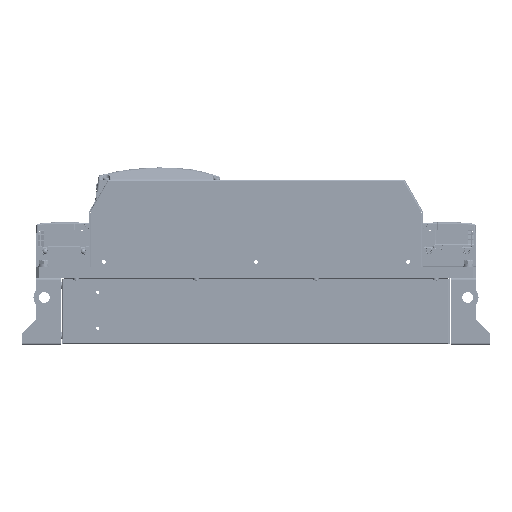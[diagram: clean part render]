
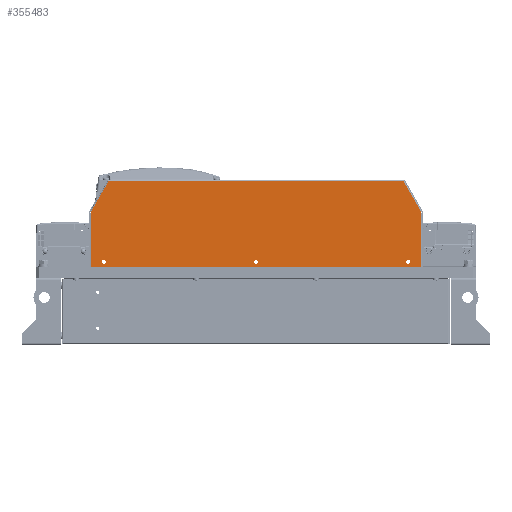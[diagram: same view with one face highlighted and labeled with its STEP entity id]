
A CAD part, front view. The second image highlights one B-rep face of the part: STEP entity #355483.
In plain terms, the highlighted planar face has unit normal (0, -1, 0) as drawn and (-1, 0, 0) by its records, which use the part's own axes.
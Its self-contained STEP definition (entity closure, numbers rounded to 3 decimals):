
#350559=CARTESIAN_POINT('',(-128.,-1.3,205.473));
#350567=DIRECTION('',(0.,0.,-1.));
#350568=VECTOR('',#350567,410.967);
#350569=CARTESIAN_POINT('',(-128.,-1.3,205.473));
#350570=LINE('',#350569,#350568);
#350711=DIRECTION('',(0.,1.,0.));
#350712=VECTOR('',#350711,0.392);
#350713=CARTESIAN_POINT('',(-128.,-45.301,-230.35));
#350714=LINE('',#350713,#350712);
#350718=DIRECTION('',(0.,0.866,0.5));
#350719=VECTOR('',#350718,0.6);
#350720=CARTESIAN_POINT('',(-128.,-1.95,-205.547));
#350721=LINE('',#350720,#350719);
#350725=DIRECTION('',(0.,-0.49,0.872));
#350726=VECTOR('',#350725,0.282);
#350727=CARTESIAN_POINT('',(-128.,-1.292,
-205.493));
#350728=LINE('',#350727,#350726);
#350732=DIRECTION('',(0.,-0.5,-0.866));
#350733=VECTOR('',#350732,0.111);
#350734=CARTESIAN_POINT('',(-128.,-1.3,205.473));
#350735=LINE('',#350734,#350733);
#350739=DIRECTION('',(0.,0.866,-0.5));
#350740=VECTOR('',#350739,0.6);
#350741=CARTESIAN_POINT('',(-128.,-1.875,205.677));
#350742=LINE('',#350741,#350740);
#350746=DIRECTION('',(0.,1.,0.));
#350747=VECTOR('',#350746,0.692);
#350748=CARTESIAN_POINT('',(-128.,-45.301,230.35));
#350749=LINE('',#350748,#350747);
#350753=CARTESIAN_POINT('',(-128.,-113.97,-212.));
#350754=DIRECTION('',(1.,0.,0.));
#350755=DIRECTION('',(0.,-1.,0.));
#350756=AXIS2_PLACEMENT_3D('',#350753,#350754,#350755);
#350761=CARTESIAN_POINT('',(-128.,-113.97,-212.));
#350762=DIRECTION('',(1.,0.,0.));
#350763=DIRECTION('',(0.,1.,0.));
#350764=AXIS2_PLACEMENT_3D('',#350761,#350762,#350763);
#350769=CARTESIAN_POINT('',(-128.,-113.97,0.));
#350770=DIRECTION('',(1.,0.,0.));
#350771=DIRECTION('',(0.,-1.,0.));
#350772=AXIS2_PLACEMENT_3D('',#350769,#350770,#350771);
#350777=CARTESIAN_POINT('',(-128.,-113.97,0.));
#350778=DIRECTION('',(1.,0.,0.));
#350779=DIRECTION('',(0.,1.,0.));
#350780=AXIS2_PLACEMENT_3D('',#350777,#350778,#350779);
#350785=CARTESIAN_POINT('',(-128.,-113.97,212.));
#350786=DIRECTION('',(1.,0.,0.));
#350787=DIRECTION('',(0.,-1.,0.));
#350788=AXIS2_PLACEMENT_3D('',#350785,#350786,#350787);
#350793=CARTESIAN_POINT('',(-128.,-113.97,212.));
#350794=DIRECTION('',(1.,0.,0.));
#350795=DIRECTION('',(0.,1.,0.));
#350796=AXIS2_PLACEMENT_3D('',#350793,#350794,#350795);
#350825=DIRECTION('',(0.,0.866,0.5));
#350826=VECTOR('',#350825,49.605);
#350827=CARTESIAN_POINT('',(-128.,-44.909,-230.35));
#350828=LINE('',#350827,#350826);
#350982=DIRECTION('',(0.,-0.866,0.5));
#350983=VECTOR('',#350982,49.345);
#350984=CARTESIAN_POINT('',(-128.,-1.875,205.677));
#350985=LINE('',#350984,#350983);
#351192=DIRECTION('',(0.,-1.,0.));
#351193=VECTOR('',#351192,75.199);
#351194=CARTESIAN_POINT('',(-128.,-45.301,230.35));
#351195=LINE('',#351194,#351193);
#351292=DIRECTION('',(0.,0.,1.));
#351293=VECTOR('',#351292,460.7);
#351294=CARTESIAN_POINT('',(-128.,-120.5,-230.35));
#351295=LINE('',#351294,#351293);
#351313=DIRECTION('',(0.,1.,0.));
#351314=VECTOR('',#351313,75.199);
#351315=CARTESIAN_POINT('',(-128.,-120.5,-230.35));
#351316=LINE('',#351315,#351314);
#351942=CARTESIAN_POINT('',(-128.,-1.875,205.677));
#351943=VERTEX_POINT('',#351942);
#351946=CARTESIAN_POINT('',(-128.,-1.355,205.377));
#351947=VERTEX_POINT('',#351946);
#351990=CARTESIAN_POINT('',(-128.,-120.5,230.35));
#351991=VERTEX_POINT('',#351990);
#352002=CARTESIAN_POINT('',(-128.,-45.301,230.35));
#352003=CARTESIAN_POINT('',(-128.,-44.609,230.35));
#352004=VERTEX_POINT('',#352002);
#352005=VERTEX_POINT('',#352003);
#352066=VERTEX_POINT('',#350559);
#352146=CARTESIAN_POINT('',(-128.,-1.95,-205.547));
#352147=CARTESIAN_POINT('',(-128.,-1.43,-205.247));
#352148=VERTEX_POINT('',#352146);
#352149=VERTEX_POINT('',#352147);
#352150=CARTESIAN_POINT('',(-128.,-1.292,
-205.493));
#352151=VERTEX_POINT('',#352150);
#352166=CARTESIAN_POINT('',(-128.,-120.5,-230.35));
#352167=VERTEX_POINT('',#352166);
#352178=CARTESIAN_POINT('',(-128.,-45.301,-230.35));
#352179=CARTESIAN_POINT('',(-128.,-44.909,-230.35));
#352180=VERTEX_POINT('',#352178);
#352181=VERTEX_POINT('',#352179);
#352285=CARTESIAN_POINT('',(-128.,-116.72,-212.));
#352286=CARTESIAN_POINT('',(-128.,-111.22,-212.));
#352287=VERTEX_POINT('',#352285);
#352288=VERTEX_POINT('',#352286);
#352301=CARTESIAN_POINT('',(-128.,-116.72,0.));
#352302=CARTESIAN_POINT('',(-128.,-111.22,0.));
#352303=VERTEX_POINT('',#352301);
#352304=VERTEX_POINT('',#352302);
#352317=CARTESIAN_POINT('',(-128.,-116.72,212.));
#352318=CARTESIAN_POINT('',(-128.,-111.22,212.));
#352319=VERTEX_POINT('',#352317);
#352320=VERTEX_POINT('',#352318);
#355437=CARTESIAN_POINT('',(-128.,0.,-108.371));
#355438=DIRECTION('',(-1.,0.,0.));
#355439=DIRECTION('',(0.,0.,-1.));
#355440=AXIS2_PLACEMENT_3D('',#355437,#355438,#355439);
#355441=PLANE('',#355440);
#355442=ORIENTED_EDGE('',*,*,#355423,.T.);
#355444=ORIENTED_EDGE('',*,*,#355443,.T.);
#355446=ORIENTED_EDGE('',*,*,#355445,.T.);
#355448=ORIENTED_EDGE('',*,*,#355447,.F.);
#355449=ORIENTED_EDGE('',*,*,#355333,.F.);
#355450=ORIENTED_EDGE('',*,*,#355351,.T.);
#355452=ORIENTED_EDGE('',*,*,#355451,.F.);
#355454=ORIENTED_EDGE('',*,*,#355453,.T.);
#355456=ORIENTED_EDGE('',*,*,#355455,.F.);
#355458=ORIENTED_EDGE('',*,*,#355457,.T.);
#355460=ORIENTED_EDGE('',*,*,#355459,.F.);
#355462=ORIENTED_EDGE('',*,*,#355461,.T.);
#355463=EDGE_LOOP('',(#355442,#355444,#355446,#355448,#355449,#355450,#355452,
#355454,#355456,#355458,#355460,#355462));
#355464=FACE_OUTER_BOUND('',#355463,.F.);
#355466=ORIENTED_EDGE('',*,*,#355465,.F.);
#355468=ORIENTED_EDGE('',*,*,#355467,.F.);
#355469=EDGE_LOOP('',(#355466,#355468));
#355470=FACE_BOUND('',#355469,.F.);
#355472=ORIENTED_EDGE('',*,*,#355471,.F.);
#355474=ORIENTED_EDGE('',*,*,#355473,.F.);
#355475=EDGE_LOOP('',(#355472,#355474));
#355476=FACE_BOUND('',#355475,.F.);
#355478=ORIENTED_EDGE('',*,*,#355477,.F.);
#355480=ORIENTED_EDGE('',*,*,#355479,.F.);
#355481=EDGE_LOOP('',(#355478,#355480));
#355482=FACE_BOUND('',#355481,.F.);
#355483=ADVANCED_FACE('',(#355464,#355470,#355476,#355482),#355441,.T.);
#350757=CIRCLE('',#350756,2.75);
#350765=CIRCLE('',#350764,2.75);
#350773=CIRCLE('',#350772,2.75);
#350781=CIRCLE('',#350780,2.75);
#350789=CIRCLE('',#350788,2.75);
#350797=CIRCLE('',#350796,2.75);
#355333=EDGE_CURVE('',#352066,#352151,#350570,.T.);
#355351=EDGE_CURVE('',#352066,#351947,#350735,.T.);
#355423=EDGE_CURVE('',#352180,#352181,#350714,.T.);
#355443=EDGE_CURVE('',#352181,#352148,#350828,.T.);
#355445=EDGE_CURVE('',#352148,#352149,#350721,.T.);
#355447=EDGE_CURVE('',#352151,#352149,#350728,.T.);
#355451=EDGE_CURVE('',#351943,#351947,#350742,.T.);
#355453=EDGE_CURVE('',#351943,#352005,#350985,.T.);
#355455=EDGE_CURVE('',#352004,#352005,#350749,.T.);
#355457=EDGE_CURVE('',#352004,#351991,#351195,.T.);
#355459=EDGE_CURVE('',#352167,#351991,#351295,.T.);
#355461=EDGE_CURVE('',#352167,#352180,#351316,.T.);
#355465=EDGE_CURVE('',#352287,#352288,#350757,.T.);
#355467=EDGE_CURVE('',#352288,#352287,#350765,.T.);
#355471=EDGE_CURVE('',#352303,#352304,#350773,.T.);
#355473=EDGE_CURVE('',#352304,#352303,#350781,.T.);
#355477=EDGE_CURVE('',#352319,#352320,#350789,.T.);
#355479=EDGE_CURVE('',#352320,#352319,#350797,.T.);
